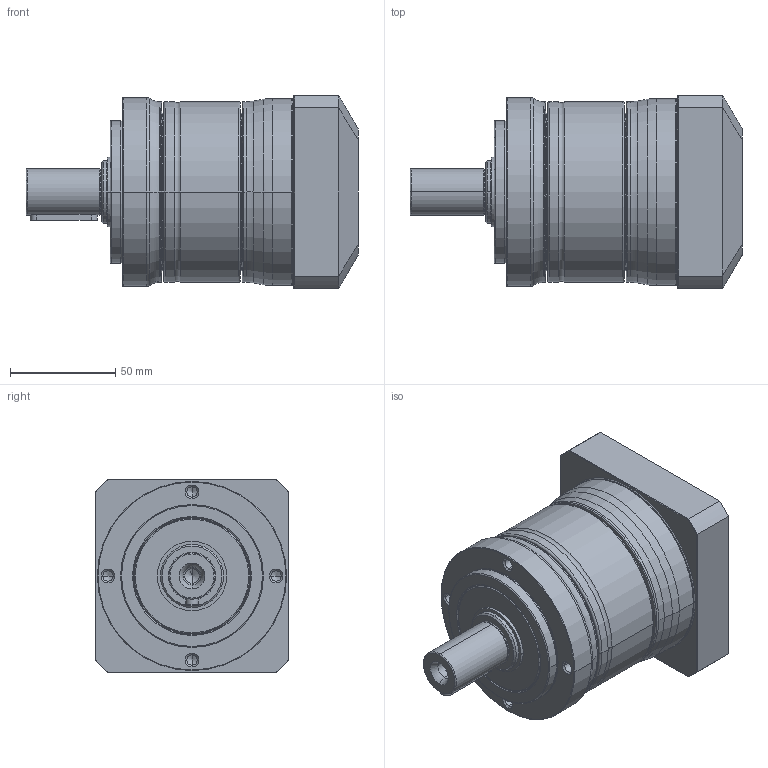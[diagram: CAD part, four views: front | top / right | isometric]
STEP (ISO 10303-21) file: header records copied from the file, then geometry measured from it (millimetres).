
FILE_DESCRIPTION((''),'2;1');
FILE_NAME('PE2-090_1ST_19-P0411400101_ASM','2017-05-26T',('d01943'),(''),'PRO/ENGINEER BY PARAMETRIC TECHNOLOGY CORPORATION, 2008410','PRO/ENGINEER BY PARAMETRIC TECHNOLOGY CORPORATION, 2008410','');
FILE_SCHEMA(('CONFIG_CONTROL_DESIGN'));
Length unit declared in the file: millimetre
Products named in the file (9): P1323310001; P0250300001; P1324300101; P0350301001; P0941301001; P0503400008; P0411400101; P1702500001; PE2-090_1ST_19-P0411400101_ASM
Assembly tree (8 placements, depth 2):
  PE2-090_1ST_19-P0411400101_ASM
    P1323310001
    P0250300001
    P1324300101
    P0350301001
    P0941301001
    P0503400008
    P0411400101
    P1702500001
Bounding box: 158 x 92 x 92 mm (x, y, z)
Volume: 574958.4 mm3; surface area: 135158.2 mm2
Topology: 8 solids, 8 shells, 465 faces, 1019 edges, 584 vertices
Faces by surface type: cone 138, cylinder 136, torus 96, plane 77, bspline 18
Entity records: 17480 total; most frequent: CARTESIAN_POINT 7060, DIRECTION 2373, ORIENTED_EDGE 1974, AXIS2_PLACEMENT_3D 1019, EDGE_CURVE 987, VERTEX_POINT 584, CIRCLE 555, EDGE_LOOP 527
